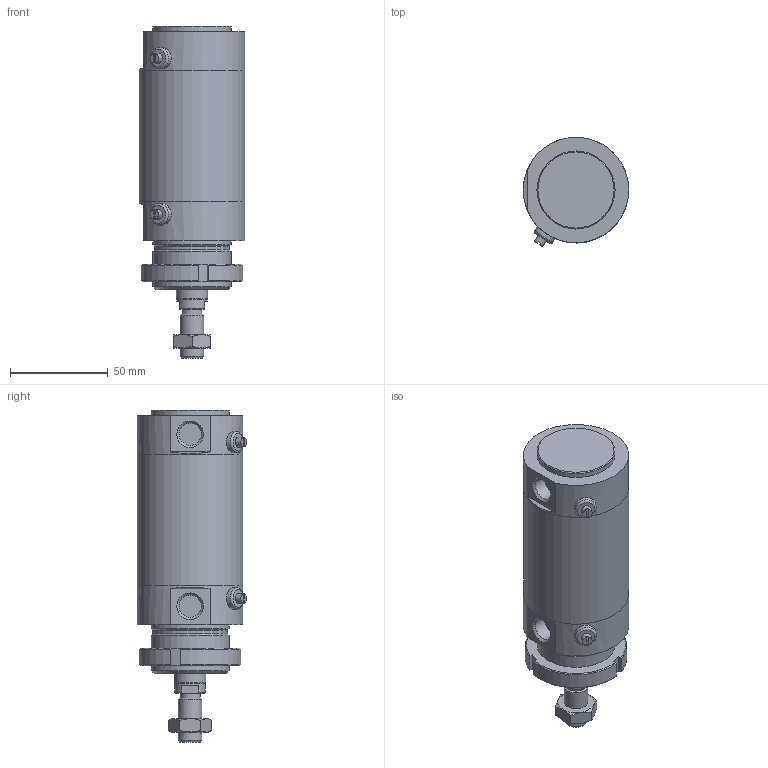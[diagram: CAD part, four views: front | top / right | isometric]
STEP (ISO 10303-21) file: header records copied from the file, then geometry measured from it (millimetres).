
FILE_DESCRIPTION(/* description */ (''),/* implementation_level */ '2;1');
FILE_NAME(/* name */ 'I:\Area Tecnica\Documenti\A-Manieri\_Inventor\12X\12X#D_###_####_#_#\12XBD_050_0025_#_#.stp',/* time_stamp */ '2015-05-04T15:12:29+02:00',/* author */ ('maniean1'),/* organization */ ('Pneumax S.p.A.'),/* preprocessor_version */ 'ST-DEVELOPER v15.2',/* originating_system */ 'Autodesk Inventor 2014',/* authorisation */ '');
FILE_SCHEMA (('AUTOMOTIVE_DESIGN { 1 0 10303 214 3 1 1 }'));
Length unit declared in the file: millimetre
Products named in the file (7): C1250_619-0025; 12X50_606; S12X50_0025; 12X_50_11; 12X50_612; G12X_050_05; 12XBD_050_0025_#_#
Bounding box: 54 x 55.88 x 170 mm (x, y, z)
Volume: 249374.9 mm3; surface area: 65273.5 mm2
Topology: 6 solids, 6 shells, 99 faces, 217 edges, 140 vertices
Faces by surface type: plane 53, cylinder 25, cone 19, torus 2
Full cylindrical faces by diameter (mm): 5 x2, 10.2 x1, 11 x2, 11.4 x2, 12 x2, 14 x1, 15.6 x1, 16 x1, 38.2 x1, 40 x4, 50 x2, 54 x3
Entity records: 2667 total; most frequent: CARTESIAN_POINT 540, DIRECTION 444, ORIENTED_EDGE 348, AXIS2_PLACEMENT_3D 188, EDGE_CURVE 174, EDGE_LOOP 152, VERTEX_POINT 132, ADVANCED_FACE 99
